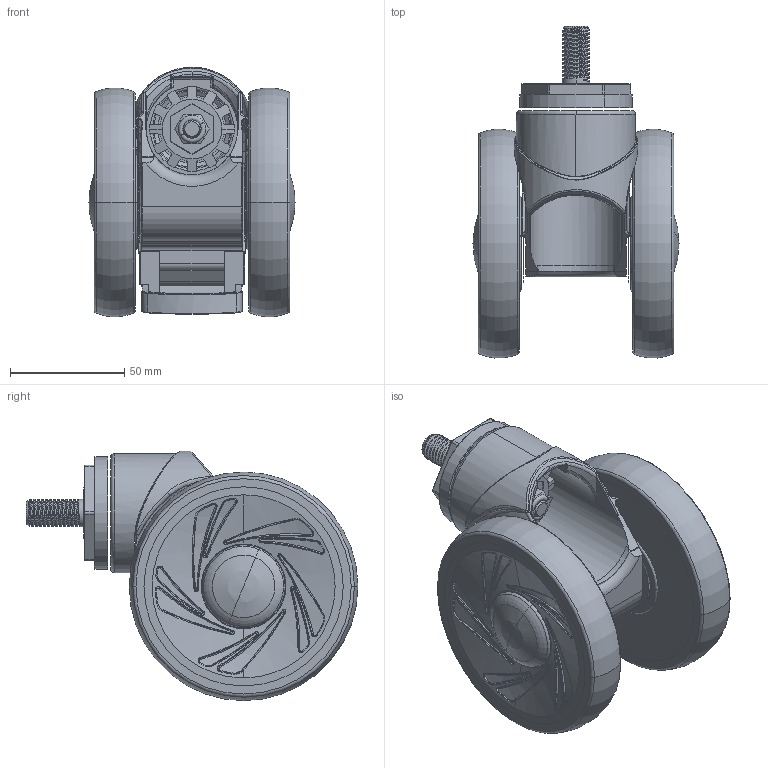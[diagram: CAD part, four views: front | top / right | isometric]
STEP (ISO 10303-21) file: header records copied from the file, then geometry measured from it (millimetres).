
FILE_DESCRIPTION((''),'2;1');
FILE_NAME('PRT0002','2025-06-19T11:51:39',('Administrator'),(''),'CREO PARAMETRIC BY PTC INC, 2022124','CREO PARAMETRIC BY PTC INC, 2022124','');
FILE_SCHEMA(('AP203_CONFIGURATION_CONTROLLED_3D_DESIGN_OF_MECHANICAL_PARTS_AND_ASSEMBLIES_MIM_LF { 1 0 10303 403 2 1 2 }'));
Products named in the file (1): PRT0002
Bounding box: 90 x 144.94 x 108.92 mm (x, y, z)
Surface area: 69930.2 mm2 (no closed solid volume)
Topology: 0 solids, 41 shells, 573 faces, 2455 edges, 1870 vertices
Faces by surface type: bspline 266, cylinder 111, plane 95, torus 78, cone 15, extrusion 4, sphere 4
Entity records: 52546 total; most frequent: CARTESIAN_POINT 31666, ORIENTED_EDGE 3385, DIRECTION 2806, EDGE_CURVE 2447, VERTEX_POINT 1868, AXIS2_PLACEMENT_3D 1167, B_SPLINE_CURVE_WITH_KNOTS 1132, CIRCLE 854
